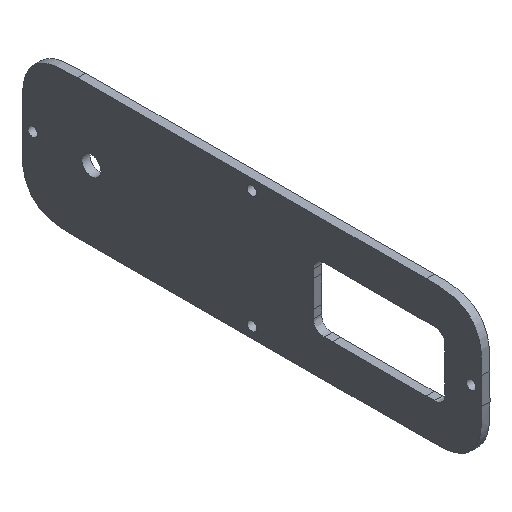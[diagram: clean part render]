
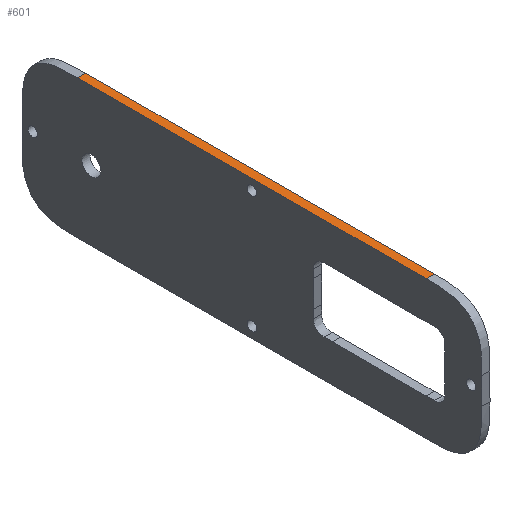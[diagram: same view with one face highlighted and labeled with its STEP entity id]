
A CAD part, isometric view. The second image highlights one B-rep face of the part: STEP entity #601.
In plain terms, the highlighted planar face has unit normal (0, 0, 1).
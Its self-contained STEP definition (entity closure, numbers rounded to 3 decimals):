
#48=PLANE('',#641);
#82=LINE('',#1860,#119);
#83=LINE('',#1863,#120);
#84=LINE('',#1865,#121);
#85=LINE('',#1866,#122);
#119=VECTOR('',#719,10.);
#120=VECTOR('',#722,10.);
#121=VECTOR('',#723,10.);
#122=VECTOR('',#724,10.);
#152=FACE_OUTER_BOUND('',#183,.T.);
#183=EDGE_LOOP('',(#489,#490,#491,#492));
#292=VERTEX_POINT('',#1784);
#293=VERTEX_POINT('',#1822);
#294=VERTEX_POINT('',#1862);
#295=VERTEX_POINT('',#1864);
#376=EDGE_CURVE('',#292,#293,#82,.T.);
#377=EDGE_CURVE('',#294,#292,#83,.T.);
#378=EDGE_CURVE('',#295,#293,#84,.T.);
#379=EDGE_CURVE('',#294,#295,#85,.T.);
#489=ORIENTED_EDGE('',*,*,#377,.T.);
#490=ORIENTED_EDGE('',*,*,#376,.T.);
#491=ORIENTED_EDGE('',*,*,#378,.F.);
#492=ORIENTED_EDGE('',*,*,#379,.F.);
#601=ADVANCED_FACE('',(#152),#48,.T.);
#641=AXIS2_PLACEMENT_3D('',#1861,#720,#721);
#719=DIRECTION('',(-1.,0.,0.));
#720=DIRECTION('center_axis',(0.,0.,
1.));
#721=DIRECTION('ref_axis',(0.,1.,0.));
#722=DIRECTION('',(0.,1.,0.));
#723=DIRECTION('',(0.,1.,0.));
#724=DIRECTION('',(-1.,0.,0.));
#1784=CARTESIAN_POINT('',(170.,65.,185.8));
#1822=CARTESIAN_POINT('',(167.,65.,185.8));
#1860=CARTESIAN_POINT('',(170.,65.,185.8));
#1861=CARTESIAN_POINT('Origin',(170.,-65.,185.8));
#1862=CARTESIAN_POINT('',(170.,-65.,185.8));
#1863=CARTESIAN_POINT('',(170.,-65.,185.8));
#1864=CARTESIAN_POINT('',(167.,-65.,185.8));
#1865=CARTESIAN_POINT('',(167.,-65.,185.8));
#1866=CARTESIAN_POINT('',(170.,-65.,185.8));
